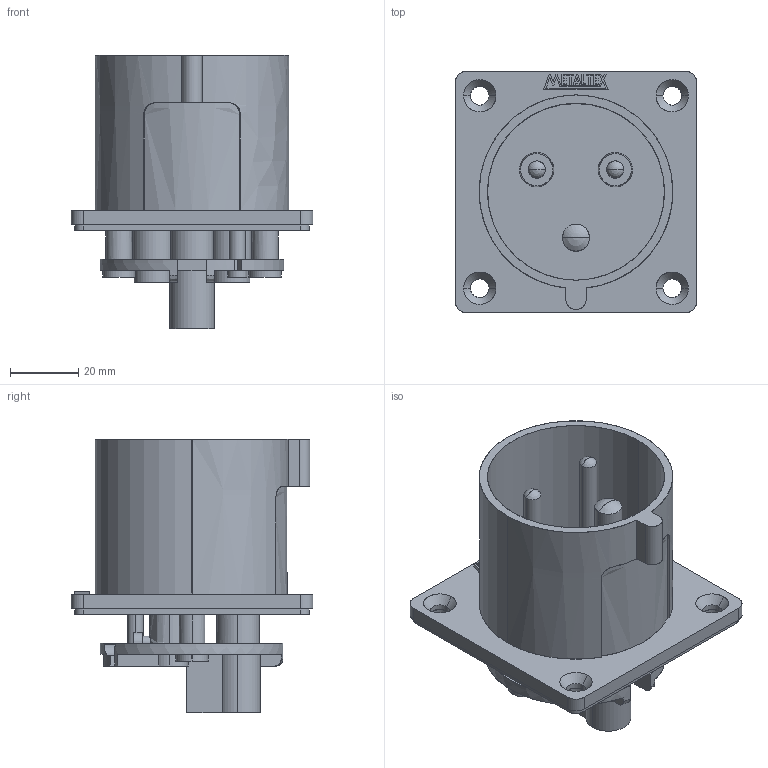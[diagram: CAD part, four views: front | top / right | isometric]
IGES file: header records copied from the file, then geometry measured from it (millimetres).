
Start section: SolidWorks IGES file using analytic representation for surfaces
Global section: file name: D:\X - Arquivos\PROEX\Empresas\P11 - METALTEX\01 - Produtos\IGES\4ª remessa\2ª etapa\TLL32432.IGS; native system: SolidWorks 2012; preprocessor: SolidWorks 2012; author: Usuario; date: 180405.175218; units: millimetre
Bounding box: 70.7 x 70.7 x 79.86 mm (x, y, z)
Surface area: 42826.4 mm2 (no closed solid volume)
Topology: 0 solids, 0 shells, 393 faces, 6169 edges, 6165 vertices
Faces by surface type: bspline 246, revolution 147
